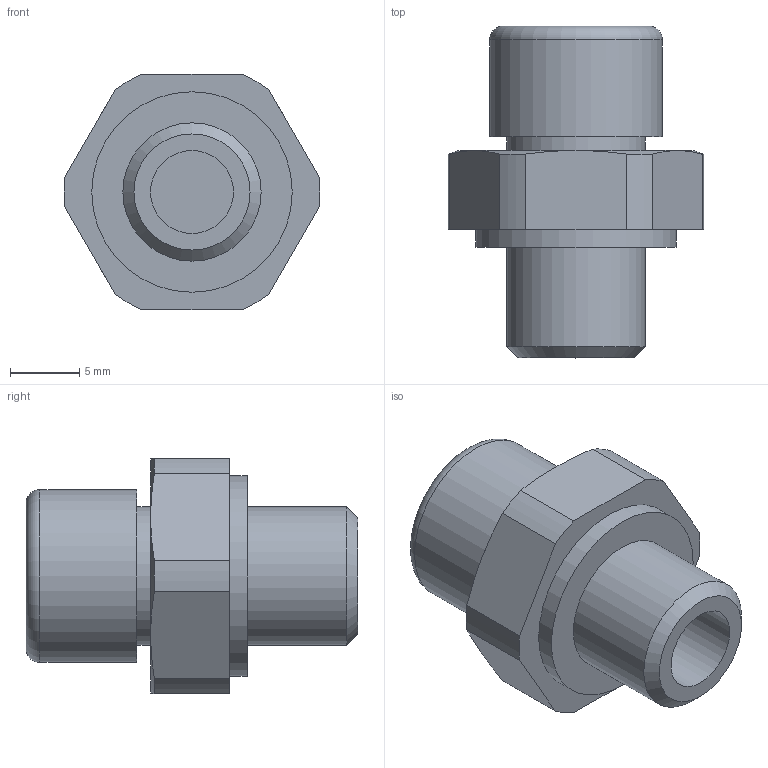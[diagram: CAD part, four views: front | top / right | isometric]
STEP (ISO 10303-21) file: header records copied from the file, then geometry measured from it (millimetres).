
FILE_DESCRIPTION( ( 'STEP AP203' ), '1' );
FILE_NAME( 'C:/Temp/Ganter_Step_05_03_2020/data/3_5/gn883/Breather valve GN 883-M10x1-20-B-MS.stp', '2020-03-12T13:42:47', ( 'License CC BY-ND 4.0' ), ( 'CADENAS' ), ' ', 'PARTsolutions', ' ' );
FILE_SCHEMA( ( 'CONFIG_CONTROL_DESIGN' ) );
Length unit declared in the file: millimetre
Products named in the file (1): _Breather valve GN 883-M10x1-20-B-MS
Bounding box: 18.49 x 24 x 17 mm (x, y, z)
Volume: 2950.5 mm3; surface area: 1749.2 mm2
Topology: 1 solids, 1 shells, 32 faces, 67 edges, 42 vertices
Faces by surface type: plane 13, cylinder 11, cone 7, torus 1
Full cylindrical faces by diameter (mm): 6 x1, 10 x2, 12.5 x1, 14.5 x1
Entity records: 882 total; most frequent: CARTESIAN_POINT 175, DIRECTION 144, ORIENTED_EDGE 120, AXIS2_PLACEMENT_3D 63, EDGE_CURVE 60, EDGE_LOOP 44, VERTEX_POINT 42, FACE_OUTER_BOUND 38
